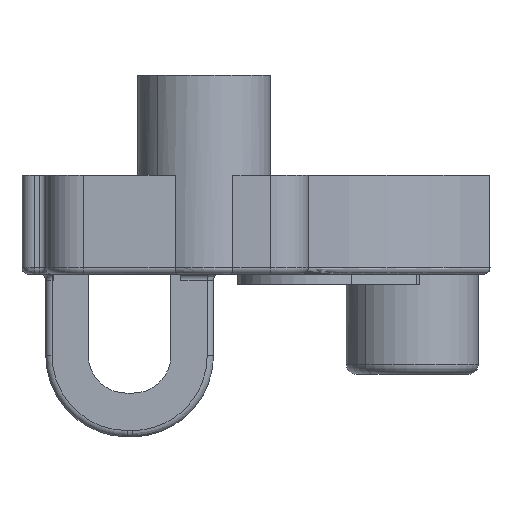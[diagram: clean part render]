
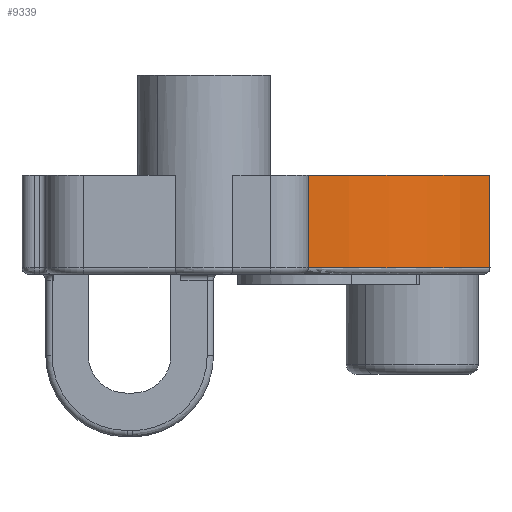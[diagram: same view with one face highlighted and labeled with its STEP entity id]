
A CAD part, front view. The second image highlights one B-rep face of the part: STEP entity #9339.
In plain terms, the highlighted cylindrical face has radius 19.2 mm (diameter 38.4 mm), a partial arc.
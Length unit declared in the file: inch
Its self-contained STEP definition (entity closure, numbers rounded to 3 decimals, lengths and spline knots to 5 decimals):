
#777=CARTESIAN_POINT('',(3.99727,16.32214,-3.29149));
#778=DIRECTION('',(0.,0.,-1.));
#779=DIRECTION('',(0.757,-0.654,0.));
#780=AXIS2_PLACEMENT_3D('',#777,#778,#779);
#2525=CARTESIAN_POINT('',(3.99727,16.32214,-3.58283));
#2526=DIRECTION('',(0.,0.,1.));
#2527=DIRECTION('',(0.,-1.,0.));
#2528=AXIS2_PLACEMENT_3D('',#2525,#2526,#2527);
#2541=CARTESIAN_POINT('',(4.56928,15.82797,-3.58283));
#2614=DIRECTION('',(0.,0.,1.));
#2615=VECTOR('',#2614,0.29134);
#2616=CARTESIAN_POINT('',(3.99727,15.56624,-3.58283));
#2617=LINE('',#2616,#2615);
#2618=DIRECTION('',(0.,0.,-1.));
#2619=VECTOR('',#2618,0.29134);
#2620=CARTESIAN_POINT('',(4.56928,15.82797,-3.29149));
#2621=LINE('',#2620,#2619);
#5478=CARTESIAN_POINT('',(4.56928,15.82797,-3.29149));
#5479=VERTEX_POINT('',#5478);
#5480=CARTESIAN_POINT('',(3.99727,15.56624,-3.29149));
#5481=VERTEX_POINT('',#5480);
#6102=CARTESIAN_POINT('',(3.99727,15.56624,-3.58283));
#6103=VERTEX_POINT('',#6102);
#6104=VERTEX_POINT('',#2541);
#9328=CARTESIAN_POINT('',(3.99727,16.32214,-3.28756));
#9329=DIRECTION('',(0.,0.,-1.));
#9330=DIRECTION('',(0.78,-0.626,0.));
#9331=AXIS2_PLACEMENT_3D('',#9328,#9329,#9330);
#9332=CYLINDRICAL_SURFACE('',#9331,0.75591);
#9333=ORIENTED_EDGE('',*,*,#9213,.F.);
#9334=ORIENTED_EDGE('',*,*,#9186,.T.);
#9335=ORIENTED_EDGE('',*,*,#7463,.F.);
#9336=ORIENTED_EDGE('',*,*,#9321,.T.);
#9337=EDGE_LOOP('',(#9333,#9334,#9335,#9336));
#9338=FACE_OUTER_BOUND('',#9337,.F.);
#9339=ADVANCED_FACE('',(#9338),#9332,.T.);
#781=CIRCLE('',#780,0.75591);
#2529=CIRCLE('',#2528,0.75591);
#7463=EDGE_CURVE('',#5479,#5481,#781,.T.);
#9186=EDGE_CURVE('',#6103,#5481,#2617,.T.);
#9213=EDGE_CURVE('',#6103,#6104,#2529,.T.);
#9321=EDGE_CURVE('',#5479,#6104,#2621,.T.);
